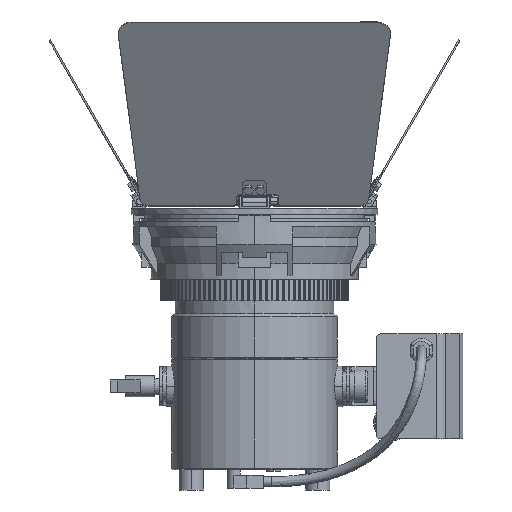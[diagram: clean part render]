
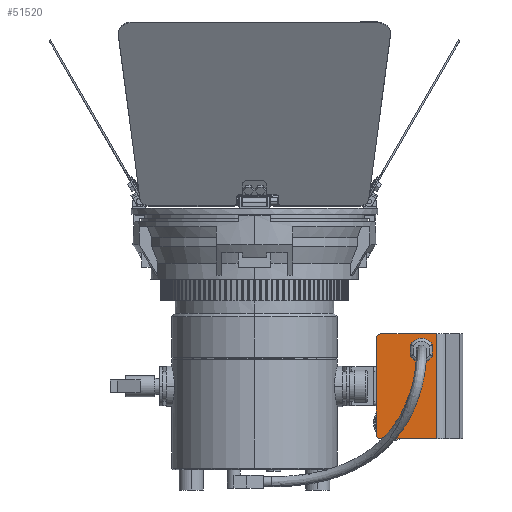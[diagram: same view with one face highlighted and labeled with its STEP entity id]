
A CAD part, front view. The second image highlights one B-rep face of the part: STEP entity #51520.
In plain terms, the highlighted planar face has unit normal (0, -1, 0) as drawn and (1, 0, 0) by its records, which use the part's own axes.
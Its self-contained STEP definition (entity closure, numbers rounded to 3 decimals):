
#471 = VERTEX_POINT ( 'NONE', #1538 ) ;
#601 = DIRECTION ( 'NONE',  ( 0., 1., 0. ) ) ;
#631 = FACE_BOUND ( 'NONE', #34432, .T. ) ;
#1538 = CARTESIAN_POINT ( 'NONE',  ( 60.958, -88.416, -25.754 ) ) ;
#2074 = EDGE_CURVE ( 'NONE', #10387, #67793, #36611, .T. ) ;
#2385 = DIRECTION ( 'NONE',  ( 0., -1., 0. ) ) ;
#3305 = CARTESIAN_POINT ( 'NONE',  ( 60.958, -75.031, -25.288 ) ) ;
#4926 = EDGE_CURVE ( 'NONE', #52868, #65905, #38784, .T. ) ;
#4930 = FACE_OUTER_BOUND ( 'NONE', #45284, .T. ) ;
#5945 = EDGE_CURVE ( 'NONE', #29861, #9232, #57677, .T. ) ;
#7719 = VERTEX_POINT ( 'NONE', #22855 ) ;
#8160 = ORIENTED_EDGE ( 'NONE', *, *, #37220, .F. ) ;
#8808 = CARTESIAN_POINT ( 'NONE',  ( 60.958, -87.531, -19.226 ) ) ;
#9232 = VERTEX_POINT ( 'NONE', #47457 ) ;
#10371 = DIRECTION ( 'NONE',  ( 1., 0., 0. ) ) ;
#10387 = VERTEX_POINT ( 'NONE', #3305 ) ;
#10580 = EDGE_CURVE ( 'NONE', #471, #33501, #61515, .T. ) ;
#11087 = ORIENTED_EDGE ( 'NONE', *, *, #2074, .F. ) ;
#11681 = DIRECTION ( 'NONE',  ( 0., -1., 0. ) ) ;
#11866 = CARTESIAN_POINT ( 'NONE',  ( 60.958, -75.147, -25.754 ) ) ;
#12801 = EDGE_CURVE ( 'NONE', #66211, #62853, #13214, .T. ) ;
#13214 = LINE ( 'NONE', #21852, #40860 ) ;
#13250 = AXIS2_PLACEMENT_3D ( 'NONE', #38129, #10371, #15947 ) ;
#13891 = AXIS2_PLACEMENT_3D ( 'NONE', #14617, #53503, #53274 ) ;
#14533 = CARTESIAN_POINT ( 'NONE',  ( 60.958, -88.416, -18.759 ) ) ;
#14617 = CARTESIAN_POINT ( 'NONE',  ( 60.958, -56.802, 29.4 ) ) ;
#14841 = DIRECTION ( 'NONE',  ( 1., 0., 0. ) ) ;
#15092 = EDGE_CURVE ( 'NONE', #9232, #62853, #54469, .T. ) ;
#15333 = CARTESIAN_POINT ( 'NONE',  ( 60.958, -53.802, -32.4 ) ) ;
#15359 = AXIS2_PLACEMENT_3D ( 'NONE', #22080, #17456, #17216 ) ;
#15689 = CARTESIAN_POINT ( 'NONE',  ( 60.958, -88.531, -25.288 ) ) ;
#15947 = DIRECTION ( 'NONE',  ( 0., 1., 0. ) ) ;
#16431 = CARTESIAN_POINT ( 'NONE',  ( 60.958, -90.915, -32.4 ) ) ;
#17126 = DIRECTION ( 'NONE',  ( 0., 0., 1. ) ) ;
#17216 = DIRECTION ( 'NONE',  ( 0., 1., 0. ) ) ;
#17330 = AXIS2_PLACEMENT_3D ( 'NONE', #8808, #31270, #69411 ) ;
#17453 = VERTEX_POINT ( 'NONE', #59568 ) ;
#17456 = DIRECTION ( 'NONE',  ( 1., 0., 0. ) ) ;
#18575 = ORIENTED_EDGE ( 'NONE', *, *, #41965, .F. ) ;
#19435 = DIRECTION ( 'NONE',  ( 0., 1., 0. ) ) ;
#20011 = CIRCLE ( 'NONE', #43288, 7.5 ) ;
#20404 = CARTESIAN_POINT ( 'NONE',  ( 60.958, -56.802, -29.4 ) ) ;
#21261 = LINE ( 'NONE', #45890, #67887 ) ;
#21852 = CARTESIAN_POINT ( 'NONE',  ( 60.958, -90.915, 32.4 ) ) ;
#22080 = CARTESIAN_POINT ( 'NONE',  ( 60.958, -81.781, -22.257 ) ) ;
#22200 = CARTESIAN_POINT ( 'NONE',  ( 60.958, -90.915, 32.4 ) ) ;
#22855 = CARTESIAN_POINT ( 'NONE',  ( 60.958, -53.802, -29.4 ) ) ;
#24152 = DIRECTION ( 'NONE',  ( 0., 0., -1. ) ) ;
#24177 = EDGE_CURVE ( 'NONE', #17453, #52868, #20011, .T. ) ;
#25479 = ORIENTED_EDGE ( 'NONE', *, *, #5945, .F. ) ;
#25746 = DIRECTION ( 'NONE',  ( 1., 0., 0. ) ) ;
#26895 = ORIENTED_EDGE ( 'NONE', *, *, #69035, .F. ) ;
#27620 = LINE ( 'NONE', #15333, #69121 ) ;
#27847 = ORIENTED_EDGE ( 'NONE', *, *, #29731, .F. ) ;
#29152 = AXIS2_PLACEMENT_3D ( 'NONE', #20404, #14841, #37525 ) ;
#29416 = DIRECTION ( 'NONE',  ( -1., 0., 0. ) ) ;
#29707 = EDGE_CURVE ( 'NONE', #29861, #7719, #45135, .T. ) ;
#29731 = EDGE_CURVE ( 'NONE', #67793, #17453, #71077, .T. ) ;
#29861 = VERTEX_POINT ( 'NONE', #67204 ) ;
#30273 = CIRCLE ( 'NONE', #13891, 3. ) ;
#31057 = EDGE_CURVE ( 'NONE', #31866, #66211, #30273, .T. ) ;
#31270 = DIRECTION ( 'NONE',  ( 1., 0., 0. ) ) ;
#31716 = CARTESIAN_POINT ( 'NONE',  ( 60.958, -56.802, 32.4 ) ) ;
#31866 = VERTEX_POINT ( 'NONE', #47190 ) ;
#33501 = VERTEX_POINT ( 'NONE', #11866 ) ;
#34432 = EDGE_LOOP ( 'NONE', ( #8160, #26895, #66894, #37888, #27847, #11087, #18575, #43549 ) ) ;
#36139 = DIRECTION ( 'NONE',  ( 0., 1., 0. ) ) ;
#36280 = DIRECTION ( 'NONE',  ( 0., 0., 1. ) ) ;
#36611 = LINE ( 'NONE', #46937, #70322 ) ;
#36786 = CARTESIAN_POINT ( 'NONE',  ( 60.958, -81.781, -22.257 ) ) ;
#37220 = EDGE_CURVE ( 'NONE', #51243, #471, #60937, .T. ) ;
#37525 = DIRECTION ( 'NONE',  ( 0., -1., 0. ) ) ;
#37888 = ORIENTED_EDGE ( 'NONE', *, *, #24177, .F. ) ;
#38129 = CARTESIAN_POINT ( 'NONE',  ( 60.958, -87.531, -25.288 ) ) ;
#38784 = CIRCLE ( 'NONE', #17330, 1. ) ;
#40591 = CIRCLE ( 'NONE', #48713, 1. ) ;
#40597 = ORIENTED_EDGE ( 'NONE', *, *, #52461, .T. ) ;
#40860 = VECTOR ( 'NONE', #11681, 1000. ) ;
#41463 = CARTESIAN_POINT ( 'NONE',  ( 60.958, -76.031, -25.288 ) ) ;
#41965 = EDGE_CURVE ( 'NONE', #33501, #10387, #40591, .T. ) ;
#42294 = DIRECTION ( 'NONE',  ( 0., -1., 0. ) ) ;
#43288 = AXIS2_PLACEMENT_3D ( 'NONE', #36786, #52537, #19435 ) ;
#43549 = ORIENTED_EDGE ( 'NONE', *, *, #10580, .F. ) ;
#44265 = DIRECTION ( 'NONE',  ( 1., 0., 0. ) ) ;
#45135 = CIRCLE ( 'NONE', #29152, 3. ) ;
#45284 = EDGE_LOOP ( 'NONE', ( #25479, #64786, #40597, #59659, #70905, #59657 ) ) ;
#45890 = CARTESIAN_POINT ( 'NONE',  ( 60.958, -88.531, -25.288 ) ) ;
#46937 = CARTESIAN_POINT ( 'NONE',  ( 60.958, -75.031, -19.226 ) ) ;
#47190 = CARTESIAN_POINT ( 'NONE',  ( 60.958, -53.802, 29.4 ) ) ;
#47457 = CARTESIAN_POINT ( 'NONE',  ( 60.958, -90.915, -32.4 ) ) ;
#48713 = AXIS2_PLACEMENT_3D ( 'NONE', #41463, #25746, #36139 ) ;
#51243 = VERTEX_POINT ( 'NONE', #15689 ) ;
#51520 = ADVANCED_FACE ( 'NONE', ( #4930, #631 ), #68510, .F. ) ;
#52461 = EDGE_CURVE ( 'NONE', #7719, #31866, #27620, .T. ) ;
#52537 = DIRECTION ( 'NONE',  ( 1., 0., 0. ) ) ;
#52764 = VECTOR ( 'NONE', #17126, 1000. ) ;
#52868 = VERTEX_POINT ( 'NONE', #14533 ) ;
#53274 = DIRECTION ( 'NONE',  ( 0., -1., 0. ) ) ;
#53503 = DIRECTION ( 'NONE',  ( 1., 0., 0. ) ) ;
#53969 = DIRECTION ( 'NONE',  ( 0., 0., 1. ) ) ;
#54469 = LINE ( 'NONE', #16431, #52764 ) ;
#56197 = CARTESIAN_POINT ( 'NONE',  ( 60.958, -75.031, -19.226 ) ) ;
#57677 = LINE ( 'NONE', #59417, #59404 ) ;
#57798 = AXIS2_PLACEMENT_3D ( 'NONE', #60689, #44265, #601 ) ;
#57892 = AXIS2_PLACEMENT_3D ( 'NONE', #62476, #29416, #2385 ) ;
#59404 = VECTOR ( 'NONE', #42294, 1000. ) ;
#59417 = CARTESIAN_POINT ( 'NONE',  ( 60.958, -90.915, -32.4 ) ) ;
#59568 = CARTESIAN_POINT ( 'NONE',  ( 60.958, -75.147, -18.759 ) ) ;
#59657 = ORIENTED_EDGE ( 'NONE', *, *, #15092, .F. ) ;
#59659 = ORIENTED_EDGE ( 'NONE', *, *, #31057, .T. ) ;
#60689 = CARTESIAN_POINT ( 'NONE',  ( 60.958, -76.031, -19.226 ) ) ;
#60937 = CIRCLE ( 'NONE', #13250, 1. ) ;
#61515 = CIRCLE ( 'NONE', #15359, 7.5 ) ;
#62476 = CARTESIAN_POINT ( 'NONE',  ( 60.958, -90.915, -32.4 ) ) ;
#62853 = VERTEX_POINT ( 'NONE', #22200 ) ;
#64786 = ORIENTED_EDGE ( 'NONE', *, *, #29707, .T. ) ;
#65905 = VERTEX_POINT ( 'NONE', #67708 ) ;
#66211 = VERTEX_POINT ( 'NONE', #31716 ) ;
#66894 = ORIENTED_EDGE ( 'NONE', *, *, #4926, .F. ) ;
#67204 = CARTESIAN_POINT ( 'NONE',  ( 60.958, -56.802, -32.4 ) ) ;
#67708 = CARTESIAN_POINT ( 'NONE',  ( 60.958, -88.531, -19.226 ) ) ;
#67793 = VERTEX_POINT ( 'NONE', #56197 ) ;
#67887 = VECTOR ( 'NONE', #24152, 1000. ) ;
#68510 = PLANE ( 'NONE',  #57892 ) ;
#69035 = EDGE_CURVE ( 'NONE', #65905, #51243, #21261, .T. ) ;
#69121 = VECTOR ( 'NONE', #53969, 1000. ) ;
#69411 = DIRECTION ( 'NONE',  ( 0., 1., 0. ) ) ;
#70322 = VECTOR ( 'NONE', #36280, 1000. ) ;
#70905 = ORIENTED_EDGE ( 'NONE', *, *, #12801, .T. ) ;
#71077 = CIRCLE ( 'NONE', #57798, 1. ) ;
